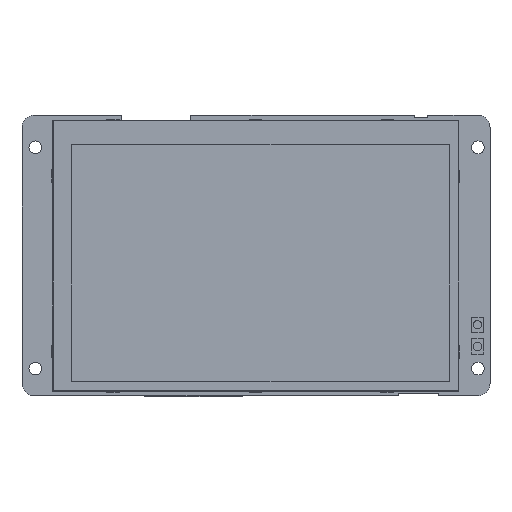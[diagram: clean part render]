
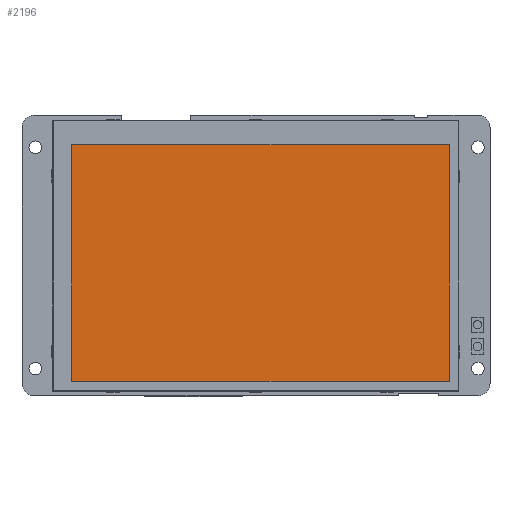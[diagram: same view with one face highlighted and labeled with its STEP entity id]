
A CAD part, front view. The second image highlights one B-rep face of the part: STEP entity #2196.
In plain terms, the highlighted planar face has unit normal (0, -1, 0) as drawn and (0, 1, 0) by its records, which use the part's own axes.
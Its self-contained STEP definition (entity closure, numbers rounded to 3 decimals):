
#1987=DIRECTION('',(0.,0.,-1.));
#1988=VECTOR('',#1987,94.6);
#1989=CARTESIAN_POINT('',(-77.13,1.575,44.3));
#1990=LINE('',#1989,#1988);
#1991=DIRECTION('',(1.,0.,0.));
#1992=VECTOR('',#1991,150.76);
#1993=CARTESIAN_POINT('',(-77.13,1.575,-50.3));
#1994=LINE('',#1993,#1992);
#1995=DIRECTION('',(0.,0.,1.));
#1996=VECTOR('',#1995,94.6);
#1997=CARTESIAN_POINT('',(73.63,1.575,-50.3));
#1998=LINE('',#1997,#1996);
#1999=DIRECTION('',(-1.,0.,0.));
#2000=VECTOR('',#1999,150.76);
#2001=CARTESIAN_POINT('',(73.63,1.575,44.3));
#2002=LINE('',#2001,#2000);
#2019=CARTESIAN_POINT('',(-77.13,1.575,44.3));
#2020=CARTESIAN_POINT('',(-77.13,1.575,-50.3));
#2021=VERTEX_POINT('',#2019);
#2022=VERTEX_POINT('',#2020);
#2023=CARTESIAN_POINT('',(73.63,1.575,44.3));
#2024=VERTEX_POINT('',#2023);
#2025=CARTESIAN_POINT('',(73.63,1.575,-50.3));
#2026=VERTEX_POINT('',#2025);
#2185=CARTESIAN_POINT('',(0.,1.575,0.));
#2186=DIRECTION('',(0.,1.,0.));
#2187=DIRECTION('',(1.,0.,0.));
#2188=AXIS2_PLACEMENT_3D('',#2185,#2186,#2187);
#2189=PLANE('',#2188);
#2190=ORIENTED_EDGE('',*,*,#2137,.T.);
#2191=ORIENTED_EDGE('',*,*,#2152,.T.);
#2192=ORIENTED_EDGE('',*,*,#2166,.T.);
#2193=ORIENTED_EDGE('',*,*,#2179,.T.);
#2194=EDGE_LOOP('',(#2190,#2191,#2192,#2193));
#2195=FACE_OUTER_BOUND('',#2194,.F.);
#2137=EDGE_CURVE('',#2021,#2022,#1990,.T.);
#2152=EDGE_CURVE('',#2022,#2026,#1994,.T.);
#2166=EDGE_CURVE('',#2026,#2024,#1998,.T.);
#2179=EDGE_CURVE('',#2024,#2021,#2002,.T.);
#2196=ADVANCED_FACE('',(#2195),#2189,.T.);
